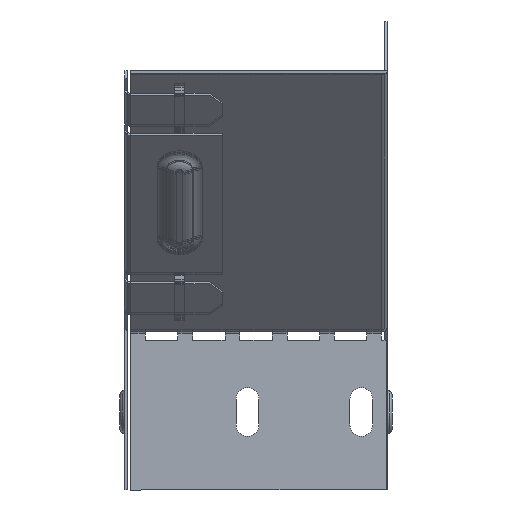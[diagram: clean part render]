
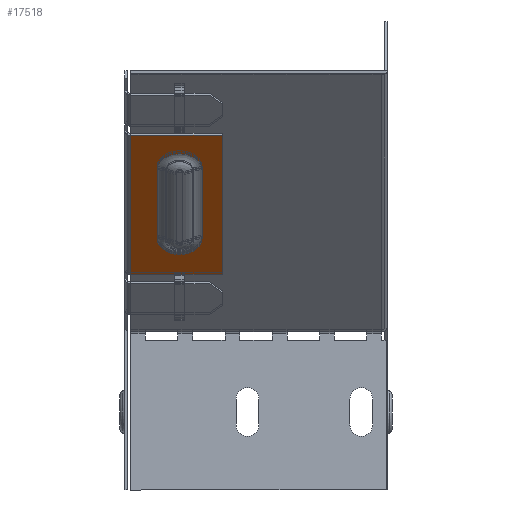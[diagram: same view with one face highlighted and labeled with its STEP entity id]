
A CAD part, left-side view. The second image highlights one B-rep face of the part: STEP entity #17518.
In plain terms, the highlighted planar face has unit normal (-0.707, 0, -0.707).
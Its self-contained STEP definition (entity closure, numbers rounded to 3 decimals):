
#155 = DIRECTION ( 'NONE',  ( 0.707, 0., 0.707 ) ) ;
#517 = VERTEX_POINT ( 'NONE', #2995 ) ;
#754 = CARTESIAN_POINT ( 'NONE',  ( -351.206, 70.017, -45.472 ) ) ;
#1539 = CARTESIAN_POINT ( 'NONE',  ( -378.087, 78.2, -18.591 ) ) ;
#2332 = VECTOR ( 'NONE', #4283, 1000. ) ;
#2508 = DIRECTION ( 'NONE',  ( 0.707, 0., 0.707 ) ) ;
#2995 = CARTESIAN_POINT ( 'NONE',  ( -319.022, 50., -77.656 ) ) ;
#3015 = EDGE_CURVE ( 'NONE', #13718, #12654, #8675, .T. ) ;
#3022 = ORIENTED_EDGE ( 'NONE', *, *, #6814, .T. ) ;
#3323 = VECTOR ( 'NONE', #18914, 1000. ) ;
#3341 = DIRECTION ( 'NONE',  ( 0.5, -0.707, -0.5 ) ) ;
#3950 = ORIENTED_EDGE ( 'NONE', *, *, #3015, .F. ) ;
#3955 = CARTESIAN_POINT ( 'NONE',  ( -319.022, 78.2, -77.656 ) ) ;
#4119 = LINE ( 'NONE', #18985, #3323 ) ;
#4283 = DIRECTION ( 'NONE',  ( 0.707, 0., -0.707 ) ) ;
#4390 = DIRECTION ( 'NONE',  ( -0.707, 0., 0.707 ) ) ;
#4426 = FACE_BOUND ( 'NONE', #18233, .T. ) ;
#5346 = AXIS2_PLACEMENT_3D ( 'NONE', #6998, #155, #3341 ) ;
#6073 = CARTESIAN_POINT ( 'NONE',  ( -190.837, 50., -205.841 ) ) ;
#6198 = LINE ( 'NONE', #20641, #19399 ) ;
#6300 = EDGE_CURVE ( 'NONE', #16244, #12654, #17056, .T. ) ;
#6640 = DIRECTION ( 'NONE',  ( -0.707, 0., 0.707 ) ) ;
#6814 = EDGE_CURVE ( 'NONE', #15059, #18833, #20280, .T. ) ;
#6998 = CARTESIAN_POINT ( 'NONE',  ( -329.993, 63.1, -66.685 ) ) ;
#7155 = EDGE_LOOP ( 'NONE', ( #3950, #19756, #13756, #21190 ) ) ;
#7324 = EDGE_CURVE ( 'NONE', #517, #16244, #20046, .T. ) ;
#8144 = VECTOR ( 'NONE', #6640, 1000. ) ;
#8675 = LINE ( 'NONE', #1539, #8144 ) ;
#9594 = CIRCLE ( 'NONE', #5346, 6.917 ) ;
#10551 = EDGE_CURVE ( 'NONE', #19071, #15059, #6198, .T. ) ;
#10880 = DIRECTION ( 'NONE',  ( 0.707, 0., -0.707 ) ) ;
#11144 = CARTESIAN_POINT ( 'NONE',  ( -351.206, 56.183, -45.472 ) ) ;
#11422 = ORIENTED_EDGE ( 'NONE', *, *, #19934, .T. ) ;
#12199 = ORIENTED_EDGE ( 'NONE', *, *, #10551, .T. ) ;
#12319 = DIRECTION ( 'NONE',  ( 0.5, -0.707, -0.5 ) ) ;
#12630 = CARTESIAN_POINT ( 'NONE',  ( -329.993, 56.183, -66.685 ) ) ;
#12643 = LINE ( 'NONE', #12783, #2332 ) ;
#12654 = VERTEX_POINT ( 'NONE', #12744 ) ;
#12744 = CARTESIAN_POINT ( 'NONE',  ( -361.823, 78.2, -34.855 ) ) ;
#12783 = CARTESIAN_POINT ( 'NONE',  ( -329.993, 56.183, -66.685 ) ) ;
#13647 = FACE_OUTER_BOUND ( 'NONE', #7155, .T. ) ;
#13718 = VERTEX_POINT ( 'NONE', #3955 ) ;
#13756 = ORIENTED_EDGE ( 'NONE', *, *, #7324, .T. ) ;
#14416 = AXIS2_PLACEMENT_3D ( 'NONE', #17783, #2508, #10880 ) ;
#15059 = VERTEX_POINT ( 'NONE', #754 ) ;
#15983 = CARTESIAN_POINT ( 'NONE',  ( -351.206, 63.1, -45.472 ) ) ;
#16244 = VERTEX_POINT ( 'NONE', #21966 ) ;
#16719 = CARTESIAN_POINT ( 'NONE',  ( -361.823, 50., -34.855 ) ) ;
#16796 = VECTOR ( 'NONE', #18317, 1000. ) ;
#17029 = AXIS2_PLACEMENT_3D ( 'NONE', #15983, #20947, #12319 ) ;
#17056 = LINE ( 'NONE', #16719, #16796 ) ;
#17469 = DIRECTION ( 'NONE',  ( -0.707, 0., 0.707 ) ) ;
#17518 = ADVANCED_FACE ( 'NONE', ( #4426, #13647 ), #18003, .F. ) ;
#17783 = CARTESIAN_POINT ( 'NONE',  ( -190.837, 80., -205.841 ) ) ;
#17878 = VECTOR ( 'NONE', #4390, 1000. ) ;
#18003 = PLANE ( 'NONE',  #14416 ) ;
#18233 = EDGE_LOOP ( 'NONE', ( #20011, #11422, #12199, #3022 ) ) ;
#18317 = DIRECTION ( 'NONE',  ( 0., 1., 0. ) ) ;
#18764 = EDGE_CURVE ( 'NONE', #18833, #20560, #12643, .T. ) ;
#18833 = VERTEX_POINT ( 'NONE', #11144 ) ;
#18914 = DIRECTION ( 'NONE',  ( 0., -1., 0. ) ) ;
#18985 = CARTESIAN_POINT ( 'NONE',  ( -319.022, 50., -77.656 ) ) ;
#19071 = VERTEX_POINT ( 'NONE', #20510 ) ;
#19399 = VECTOR ( 'NONE', #17469, 1000. ) ;
#19756 = ORIENTED_EDGE ( 'NONE', *, *, #19910, .T. ) ;
#19910 = EDGE_CURVE ( 'NONE', #13718, #517, #4119, .T. ) ;
#19934 = EDGE_CURVE ( 'NONE', #20560, #19071, #9594, .T. ) ;
#20011 = ORIENTED_EDGE ( 'NONE', *, *, #18764, .T. ) ;
#20046 = LINE ( 'NONE', #6073, #17878 ) ;
#20280 = CIRCLE ( 'NONE', #17029, 6.917 ) ;
#20510 = CARTESIAN_POINT ( 'NONE',  ( -329.993, 70.017, -66.685 ) ) ;
#20560 = VERTEX_POINT ( 'NONE', #12630 ) ;
#20641 = CARTESIAN_POINT ( 'NONE',  ( -329.993, 70.017, -66.685 ) ) ;
#20947 = DIRECTION ( 'NONE',  ( 0.707, 0., 0.707 ) ) ;
#21190 = ORIENTED_EDGE ( 'NONE', *, *, #6300, .T. ) ;
#21966 = CARTESIAN_POINT ( 'NONE',  ( -361.823, 50., -34.855 ) ) ;
